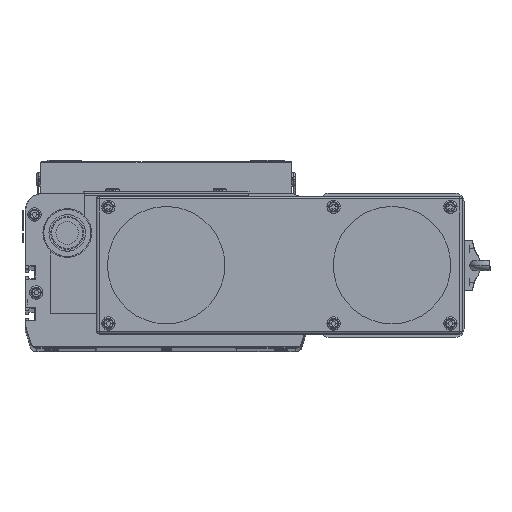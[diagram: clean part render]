
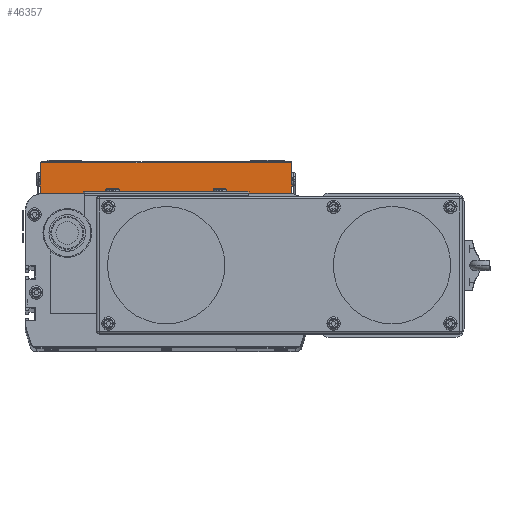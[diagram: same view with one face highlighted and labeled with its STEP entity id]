
A CAD part, top view. The second image highlights one B-rep face of the part: STEP entity #46357.
In plain terms, the highlighted planar face has unit normal (0, 0, 1) as drawn and (1, 0, 0) by its records, which use the part's own axes.
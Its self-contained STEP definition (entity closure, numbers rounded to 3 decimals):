
#23668 = DIRECTION ( 'NONE',  ( 0., 0., 1. ) ) ;
#23670 = DIRECTION ( 'NONE',  ( -1., 0., 0. ) ) ;
#23683 = CARTESIAN_POINT ( 'NONE',  ( 220., 20., 0. ) ) ;
#23685 = AXIS2_PLACEMENT_3D ( 'NONE', #23683, #23670, #23668 ) ;
#23962 = CARTESIAN_POINT ( 'NONE',  ( 220., 20., 0. ) ) ;
#23963 = LINE ( 'NONE', #23962, #23998 ) ;
#23966 = PLANE ( 'NONE',  #23685 ) ;
#23967 = FACE_OUTER_BOUND ( 'NONE', #46364, .T. ) ;
#23997 = DIRECTION ( 'NONE',  ( 0., -1., 0. ) ) ;
#23998 = VECTOR ( 'NONE', #23997, 1000. ) ;
#24303 = CARTESIAN_POINT ( 'NONE',  ( 220., 19.5, -75. ) ) ;
#25391 = CARTESIAN_POINT ( 'NONE',  ( 220., 19.5, 0. ) ) ;
#25462 = DIRECTION ( 'NONE',  ( 0., 0., 1. ) ) ;
#25463 = VECTOR ( 'NONE', #25462, 1000. ) ;
#25464 = CARTESIAN_POINT ( 'NONE',  ( 220., 19.5, 0. ) ) ;
#25466 = LINE ( 'NONE', #25464, #25463 ) ;
#46355 = ORIENTED_EDGE ( 'NONE', *, *, #46646, .T. ) ;
#46357 = ADVANCED_FACE ( 'NONE', ( #23967 ), #23966, .F. ) ;
#46364 = EDGE_LOOP ( 'NONE', ( #46535, #46355, #126994, #127114, #46463 ) ) ;
#46366 = EDGE_CURVE ( 'NONE', #46649, #126656, #23963, .T. ) ;
#46434 = VERTEX_POINT ( 'NONE', #24303 ) ;
#46463 = ORIENTED_EDGE ( 'NONE', *, *, #127102, .T. ) ;
#46535 = ORIENTED_EDGE ( 'NONE', *, *, #126668, .F. ) ;
#46646 = EDGE_CURVE ( 'NONE', #126640, #46434, #25466, .T. ) ;
#46649 = VERTEX_POINT ( 'NONE', #25391 ) ;
#62091 = CARTESIAN_POINT ( 'NONE',  ( 220., 0., -150. ) ) ;
#62118 = CARTESIAN_POINT ( 'NONE',  ( 220., 19.5, -150. ) ) ;
#62281 = DIRECTION ( 'NONE',  ( 0., -1., 0. ) ) ;
#62282 = VECTOR ( 'NONE', #62281, 1000. ) ;
#62284 = CARTESIAN_POINT ( 'NONE',  ( 220., 20., -150. ) ) ;
#62303 = LINE ( 'NONE', #62284, #62282 ) ;
#62358 = CARTESIAN_POINT ( 'NONE',  ( 220., 0., 0. ) ) ;
#126635 = VERTEX_POINT ( 'NONE', #62091 ) ;
#126640 = VERTEX_POINT ( 'NONE', #62118 ) ;
#126656 = VERTEX_POINT ( 'NONE', #62358 ) ;
#126668 = EDGE_CURVE ( 'NONE', #126640, #126635, #62303, .T. ) ;
#126992 = EDGE_CURVE ( 'NONE', #46434, #46649, #141549, .T. ) ;
#126994 = ORIENTED_EDGE ( 'NONE', *, *, #126992, .T. ) ;
#127102 = EDGE_CURVE ( 'NONE', #126656, #126635, #144667, .T. ) ;
#127114 = ORIENTED_EDGE ( 'NONE', *, *, #46366, .T. ) ;
#141534 = DIRECTION ( 'NONE',  ( 0., 0., 1. ) ) ;
#141535 = VECTOR ( 'NONE', #141534, 1000. ) ;
#141536 = CARTESIAN_POINT ( 'NONE',  ( 220., 19.5, 0. ) ) ;
#141549 = LINE ( 'NONE', #141536, #141535 ) ;
#144664 = DIRECTION ( 'NONE',  ( 0., 0., -1. ) ) ;
#144665 = VECTOR ( 'NONE', #144664, 1000. ) ;
#144666 = CARTESIAN_POINT ( 'NONE',  ( 220., 0., 0. ) ) ;
#144667 = LINE ( 'NONE', #144666, #144665 ) ;
